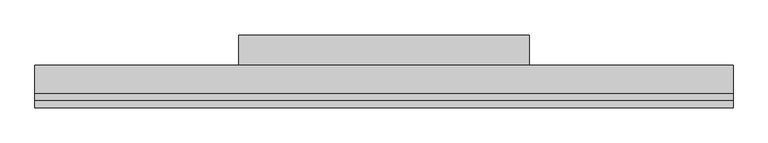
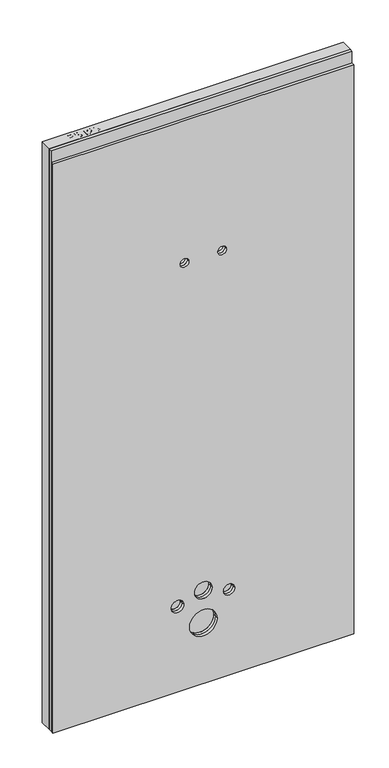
"""IFC4 building model written with IfcOpenShell, lengths in millimetres: proxy geometry, ParedeSanita_Blufab : Parede Sanita- Largura 120 cm."""

from ifc_helpers import new_model, si_unit, point, frame, frame_2d, origin, origin_with_axes, place, context, project, spatial, polyline, circle_curve, trimmed, segment, composite_curve, outline, extrude, source, transform, mapped, element, save


def generic_models_6c692219(model_context):
    return source(origin(), model_context, "Body", "SweptSolid", [
        extrude(outline(polyline([(850.0, 25.0126803), (350.0, 25.0126803), (350.0, 125.0126803), (850.0, 125.0126803), (850.0, 25.0126803)])), origin_with_axes(), (0.0, 0.0, 1.0), 1000.0),
        extrude(outline(polyline([(2450.0, 1200.0), (2450.0, 0.0), (0.0, 0.0), (0.0, 1200.0), (2450.0, 1200.0)]), holes=[composite_curve([segment(trimmed(circle_curve(frame_2d((360.0, 703.0)), 22.5), [point((360.0, 725.5))], [point((360.0, 680.5))], True, "CARTESIAN"), True, "CONTINUOUS"), segment(trimmed(circle_curve(frame_2d((360.0, 703.0)), 22.5), [point((360.0, 680.5))], [point((360.0, 725.5))], True, "CARTESIAN"), True, "CONTINUOUS")], self_intersect=False), composite_curve([segment(trimmed(circle_curve(frame_2d((360.0, 497.0)), 25.0), [point((360.0, 522.0))], [point((360.0, 472.0))], True, "CARTESIAN"), True, "CONTINUOUS"), segment(trimmed(circle_curve(frame_2d((360.0, 497.0)), 25.0), [point((360.0, 472.0))], [point((360.0, 522.0))], True, "CARTESIAN"), True, "CONTINUOUS")], self_intersect=False), composite_curve([segment(trimmed(circle_curve(frame_2d((1800.0, 525.0)), 17.5), [point((1800.0, 542.5))], [point((1800.0, 507.5))], True, "CARTESIAN"), True, "CONTINUOUS"), segment(trimmed(circle_curve(frame_2d((1800.0, 525.0)), 17.5), [point((1800.0, 507.5))], [point((1800.0, 542.5))], True, "CARTESIAN"), True, "CONTINUOUS")], self_intersect=False), composite_curve([segment(trimmed(circle_curve(frame_2d((1800.0, 675.0)), 17.5), [point((1800.0, 692.5))], [point((1800.0, 657.5))], True, "CARTESIAN"), True, "CONTINUOUS"), segment(trimmed(circle_curve(frame_2d((1800.0, 675.0)), 17.5), [point((1800.0, 657.5))], [point((1800.0, 692.5))], True, "CARTESIAN"), True, "CONTINUOUS")], self_intersect=False), composite_curve([segment(trimmed(circle_curve(frame_2d((393.0, 600.0)), 35.0), [point((393.0, 635.0))], [point((393.0, 565.0))], True, "CARTESIAN"), True, "CONTINUOUS"), segment(trimmed(circle_curve(frame_2d((393.0, 600.0)), 35.0), [point((393.0, 565.0))], [point((393.0, 635.0))], True, "CARTESIAN"), True, "CONTINUOUS")], self_intersect=False), composite_curve([segment(trimmed(circle_curve(frame_2d((256.0, 600.0)), 55.0), [point((256.0, 655.0))], [point((256.0, 545.0))], True, "CARTESIAN"), True, "CONTINUOUS"), segment(trimmed(circle_curve(frame_2d((256.0, 600.0)), 55.0), [point((256.0, 545.0))], [point((256.0, 655.0))], True, "CARTESIAN"), True, "CONTINUOUS")], self_intersect=False)]), frame((0.0, 25.0126803, 0.0), z_axis=(0.0, 1.0, 0.0), x_axis=(0.0, 0.0, 1.0)), (0.0, 0.0, 1.0), 47.9873197),
        extrude(outline(polyline([(2450.0, 1200.0), (2450.0, 0.0), (0.0, 0.0), (0.0, 1200.0), (2450.0, 1200.0)]), holes=[composite_curve([segment(trimmed(circle_curve(frame_2d((360.0, 703.0)), 22.5), [point((360.0, 725.5))], [point((360.0, 680.5))], True, "CARTESIAN"), True, "CONTINUOUS"), segment(trimmed(circle_curve(frame_2d((360.0, 703.0)), 22.5), [point((360.0, 680.5))], [point((360.0, 725.5))], True, "CARTESIAN"), True, "CONTINUOUS")], self_intersect=False), composite_curve([segment(trimmed(circle_curve(frame_2d((360.0, 497.0)), 25.0), [point((360.0, 522.0))], [point((360.0, 472.0))], True, "CARTESIAN"), True, "CONTINUOUS"), segment(trimmed(circle_curve(frame_2d((360.0, 497.0)), 25.0), [point((360.0, 472.0))], [point((360.0, 522.0))], True, "CARTESIAN"), True, "CONTINUOUS")], self_intersect=False), composite_curve([segment(trimmed(circle_curve(frame_2d((1800.0, 525.0)), 17.5), [point((1800.0, 542.5))], [point((1800.0, 507.5))], True, "CARTESIAN"), True, "CONTINUOUS"), segment(trimmed(circle_curve(frame_2d((1800.0, 525.0)), 17.5), [point((1800.0, 507.5))], [point((1800.0, 542.5))], True, "CARTESIAN"), True, "CONTINUOUS")], self_intersect=False), composite_curve([segment(trimmed(circle_curve(frame_2d((1800.0, 675.0)), 17.5), [point((1800.0, 692.5))], [point((1800.0, 657.5))], True, "CARTESIAN"), True, "CONTINUOUS"), segment(trimmed(circle_curve(frame_2d((1800.0, 675.0)), 17.5), [point((1800.0, 657.5))], [point((1800.0, 692.5))], True, "CARTESIAN"), True, "CONTINUOUS")], self_intersect=False), composite_curve([segment(trimmed(circle_curve(frame_2d((393.0, 600.0)), 35.0), [point((393.0, 635.0))], [point((393.0, 565.0))], True, "CARTESIAN"), True, "CONTINUOUS"), segment(trimmed(circle_curve(frame_2d((393.0, 600.0)), 35.0), [point((393.0, 565.0))], [point((393.0, 635.0))], True, "CARTESIAN"), True, "CONTINUOUS")], self_intersect=False), composite_curve([segment(trimmed(circle_curve(frame_2d((256.0, 600.0)), 55.0), [point((256.0, 655.0))], [point((256.0, 545.0))], True, "CARTESIAN"), True, "CONTINUOUS"), segment(trimmed(circle_curve(frame_2d((256.0, 600.0)), 55.0), [point((256.0, 545.0))], [point((256.0, 655.0))], True, "CARTESIAN"), True, "CONTINUOUS")], self_intersect=False)]), frame((0.0, 12.5126803, 0.0), z_axis=(0.0, 1.0, 0.0), x_axis=(0.0, 0.0, 1.0)), (0.0, 0.0, 1.0), 12.5),
        extrude(outline(polyline([(2400.0, 1200.0), (2400.0, 0.0), (0.0, 0.0), (0.0, 1200.0), (2400.0, 1200.0)]), holes=[composite_curve([segment(trimmed(circle_curve(frame_2d((360.0, 703.0)), 22.5), [point((360.0, 725.5))], [point((360.0, 680.5))], True, "CARTESIAN"), True, "CONTINUOUS"), segment(trimmed(circle_curve(frame_2d((360.0, 703.0)), 22.5), [point((360.0, 680.5))], [point((360.0, 725.5))], True, "CARTESIAN"), True, "CONTINUOUS")], self_intersect=False), composite_curve([segment(trimmed(circle_curve(frame_2d((360.0, 497.0)), 25.0), [point((360.0, 522.0))], [point((360.0, 472.0))], True, "CARTESIAN"), True, "CONTINUOUS"), segment(trimmed(circle_curve(frame_2d((360.0, 497.0)), 25.0), [point((360.0, 472.0))], [point((360.0, 522.0))], True, "CARTESIAN"), True, "CONTINUOUS")], self_intersect=False), composite_curve([segment(trimmed(circle_curve(frame_2d((1800.0, 525.0)), 17.5), [point((1800.0, 542.5))], [point((1800.0, 507.5))], True, "CARTESIAN"), True, "CONTINUOUS"), segment(trimmed(circle_curve(frame_2d((1800.0, 525.0)), 17.5), [point((1800.0, 507.5))], [point((1800.0, 542.5))], True, "CARTESIAN"), True, "CONTINUOUS")], self_intersect=False), composite_curve([segment(trimmed(circle_curve(frame_2d((1800.0, 675.0)), 17.5), [point((1800.0, 692.5))], [point((1800.0, 657.5))], True, "CARTESIAN"), True, "CONTINUOUS"), segment(trimmed(circle_curve(frame_2d((1800.0, 675.0)), 17.5), [point((1800.0, 657.5))], [point((1800.0, 692.5))], True, "CARTESIAN"), True, "CONTINUOUS")], self_intersect=False), composite_curve([segment(trimmed(circle_curve(frame_2d((393.0, 600.0)), 35.0), [point((393.0, 635.0))], [point((393.0, 565.0))], True, "CARTESIAN"), True, "CONTINUOUS"), segment(trimmed(circle_curve(frame_2d((393.0, 600.0)), 35.0), [point((393.0, 565.0))], [point((393.0, 635.0))], True, "CARTESIAN"), True, "CONTINUOUS")], self_intersect=False), composite_curve([segment(trimmed(circle_curve(frame_2d((256.0, 600.0)), 55.0), [point((256.0, 655.0))], [point((256.0, 545.0))], True, "CARTESIAN"), True, "CONTINUOUS"), segment(trimmed(circle_curve(frame_2d((256.0, 600.0)), 55.0), [point((256.0, 545.0))], [point((256.0, 655.0))], True, "CARTESIAN"), True, "CONTINUOUS")], self_intersect=False)]), frame((0.0, 0.0, 0.0), z_axis=(0.0, 1.0, 0.0), x_axis=(0.0, 0.0, 1.0)), (0.0, 0.0, 1.0), 12.5),
        extrude(outline(polyline([(90.9034363, 34.0063401), (90.9034363, 64.1432332), (102.0723337, 64.1432332), (106.5752093, 63.8562852), (110.2356351, 62.4472972), (112.608474, 59.5336718), (113.5061061, 55.4244299), (111.0817637, 48.9129186), (102.3298511, 46.2494529), (94.6705479, 46.2494529), (94.6705479, 34.0063401), (90.9034363, 34.0063401)]), holes=[polyline([(94.6705479, 50.0165646), (102.5505803, 50.0165646), (108.0982407, 51.3998009), (109.7389944, 55.2919924), (108.7714648, 58.4116317), (106.2294002, 60.1186041), (102.4622886, 60.3761215), (94.6705479, 60.3761215), (94.6705479, 50.0165646)])]), origin_with_axes(), (0.0, 0.0, 1.0), 2450.0),
        extrude(outline(polyline([(117.2732177, 44.3658971), (121.0403293, 44.3658971), (122.2543399, 40.5951067), (125.2194688, 38.2112313), (129.7370597, 37.3025628), (133.6733971, 37.9905021), (136.2154616, 39.8814156), (137.0505538, 42.4087649), (136.4251544, 44.7595308), (133.8646957, 46.4701821), (128.3795751, 47.9086007), (122.4750691, 49.7664048), (119.2708169, 52.5696656), (118.2149956, 56.3147043), (119.5209767, 60.5784566), (123.335913, 63.5877314), (128.9203617, 64.6141221), (134.88005, 63.5399067), (138.8531755, 60.3834792), (140.3467764, 55.667232), (136.5796648, 55.667232), (134.4459492, 59.5373506), (129.0675145, 60.8470105), (123.6743644, 59.5520659), (121.9821072, 56.4250689), (123.1814026, 53.8131067), (129.3323895, 51.7088217), (135.9984113, 49.8179083), (139.6441218, 46.7644877), (140.8176654, 42.5044142), (139.4675385, 37.9978598), (135.5827046, 34.7089947), (129.8842125, 33.5354512), (123.1556508, 34.8009652), (118.8992561, 38.6122227), (117.2732177, 44.3658971)])), origin_with_axes(), (0.0, 0.0, 1.0), 2450.0),
        extrude(outline(polyline([(159.1823346, 34.0063401), (155.415223, 34.0063401), (155.415223, 57.4919267), (151.8467676, 54.9498621), (147.8809997, 53.0479122), (147.8809997, 56.6090099), (153.4029085, 60.1333194), (156.7543134, 64.1432332), (159.1823346, 64.1432332), (159.1823346, 34.0063401)])), origin_with_axes(), (0.0, 0.0, 1.0), 2450.0),
        extrude(outline(polyline([(187.4356718, 37.7734518), (187.4356718, 34.0063401), (167.6583358, 34.0063401), (168.063006, 36.603587), (170.351232, 40.6024643), (175.0674792, 44.9692236), (181.5716328, 51.2452904), (183.1976712, 55.5127216), (181.6636033, 58.9671335), (177.6573684, 60.3761215), (173.4819078, 59.0002429), (171.8963364, 55.1963431), (168.1292247, 55.667232), (171.0170984, 61.9727294), (177.7383024, 64.1432332), (184.4815794, 61.7299273), (186.9647829, 55.7408084), (186.2952376, 52.1686742), (184.0695516, 48.475139), (178.6727227, 43.3137546), (174.3390728, 39.690117), (172.639458, 37.7734518), (187.4356718, 37.7734518)])), origin_with_axes(), (0.0, 0.0, 1.0), 2450.0),
        extrude(outline(polyline([(191.2027835, 48.8319845), (192.3101083, 57.5029632), (195.5989733, 62.5024795), (201.0914515, 64.1432332), (205.4913202, 63.1720247), (208.5300254, 60.3724427), (210.295859, 55.9137129), (210.9801195, 48.8319845), (209.8838312, 40.1977941), (206.6060026, 35.1872413), (201.0914515, 33.5354512), (194.2047005, 36.4049307), (191.2027835, 48.8319845)]), holes=[polyline([(194.9698951, 48.8393422), (196.7357287, 39.484103), (201.0914515, 37.3025628), (205.4471743, 39.4914607), (207.2130079, 48.8393422), (205.5060354, 58.0878955), (201.0473057, 60.3761215), (196.7945898, 58.3601282), (194.9698951, 48.8393422)])]), origin_with_axes(), (0.0, 0.0, 1.0), 2450.0),
    ])


if __name__ == "__main__":
    model = new_model("IFC4")
    model_context = context("Model", 3, world=origin())
    ifc_project = project(units=[si_unit("LENGTHUNIT", "METRE", prefix="MILLI")], contexts=[model_context])
    site = spatial("IfcSite", under=ifc_project)
    building = spatial("IfcBuilding", under=site)
    placement = place(None, origin())
    generic_models_shape = generic_models_6c692219(model_context)
    element("IfcBuildingElementProxy", 1, Name="ParedeSanita_Blufab : Parede Sanita- Largura 120 cm", ObjectType="ParedeSanita_Blufab : Parede Sanita- Largura 120 cm", at=placement, inside=building, context=model_context, shape_type="MappedRepresentation", body=[
        mapped(generic_models_shape, transform((0.0, 0.0, 0.0), x_axis=(1.0, 0.0, 0.0), y_axis=(0.0, 1.0, 0.0), z_axis=(0.0, 0.0, 1.0))),
    ])
    save(model, "model.ifc")
